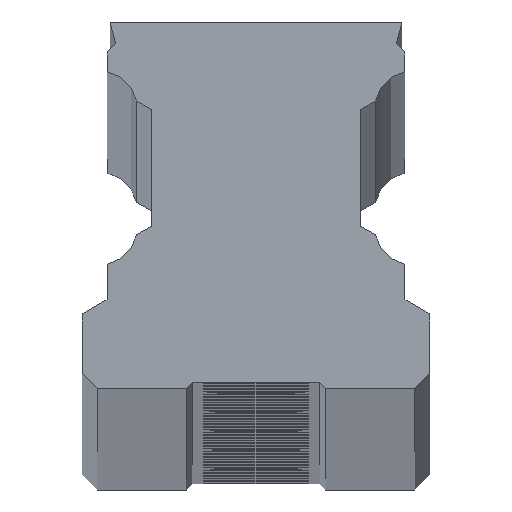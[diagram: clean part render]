
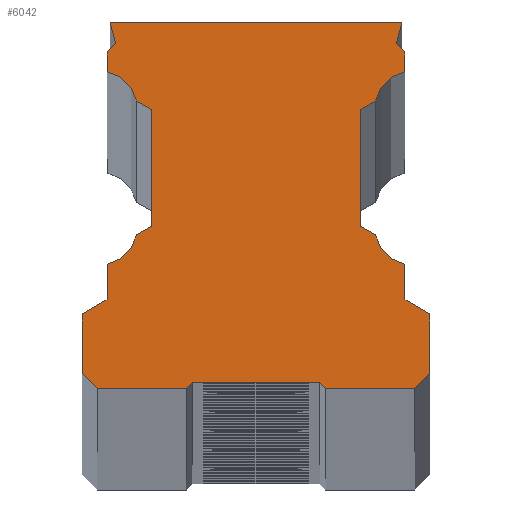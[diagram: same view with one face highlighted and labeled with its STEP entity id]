
A CAD part, top view. The second image highlights one B-rep face of the part: STEP entity #6042.
In plain terms, the highlighted planar face has unit normal (0, 0, 1).
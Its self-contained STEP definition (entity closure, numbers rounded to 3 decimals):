
#811=DIRECTION('',(-0.707,0.707,0.));
#812=VECTOR('',#811,1.414);
#813=CARTESIAN_POINT('',(-10.5,-14.6,1918.));
#814=LINE('',#813,#812);
#835=CARTESIAN_POINT('',(-10.3,-3.95,1918.));
#836=DIRECTION('',(0.,0.,-1.));
#837=DIRECTION('',(0.981,-0.194,0.));
#838=AXIS2_PLACEMENT_3D('',#835,#836,#837);
#845=DIRECTION('',(-0.707,-0.707,0.));
#846=VECTOR('',#845,0.566);
#847=CARTESIAN_POINT('',(-4.2,-14.2,1918.));
#848=LINE('',#847,#846);
#849=DIRECTION('',(1.,0.,0.));
#850=VECTOR('',#849,5.9);
#851=CARTESIAN_POINT('',(-10.5,-14.6,1918.));
#852=LINE('',#851,#850);
#853=DIRECTION('',(0.,-1.,0.));
#854=VECTOR('',#853,3.947);
#855=CARTESIAN_POINT('',(-11.5,-9.653,1918.));
#856=LINE('',#855,#854);
#857=DIRECTION('',(0.866,0.5,0.));
#858=VECTOR('',#857,1.905);
#859=CARTESIAN_POINT('',(-11.5,-9.653,1918.));
#860=LINE('',#859,#858);
#861=DIRECTION('',(0.,-1.,0.));
#862=VECTOR('',#861,2.342);
#863=CARTESIAN_POINT('',(-9.85,-6.358,1918.));
#864=LINE('',#863,#862);
#865=DIRECTION('',(0.866,0.5,0.));
#866=VECTOR('',#865,1.151);
#867=CARTESIAN_POINT('',(-7.897,-4.425,1918.));
#868=LINE('',#867,#866);
#869=DIRECTION('',(0.,1.,0.));
#870=VECTOR('',#869,7.7);
#871=CARTESIAN_POINT('',(-6.9,-3.85,1918.));
#872=LINE('',#871,#870);
#873=DIRECTION('',(-0.866,0.5,0.));
#874=VECTOR('',#873,1.151);
#875=CARTESIAN_POINT('',(-6.9,3.85,1918.));
#876=LINE('',#875,#874);
#877=DIRECTION('',(0.,-1.,0.));
#878=VECTOR('',#877,1.317);
#879=CARTESIAN_POINT('',(-9.85,7.675,1918.));
#880=LINE('',#879,#878);
#881=DIRECTION('',(0.707,0.707,0.));
#882=VECTOR('',#881,0.813);
#883=CARTESIAN_POINT('',(-9.85,7.675,1918.));
#884=LINE('',#883,#882);
#885=DIRECTION('',(-0.259,0.966,0.));
#886=VECTOR('',#885,1.449);
#887=CARTESIAN_POINT('',(-9.275,8.25,1918.));
#888=LINE('',#887,#886);
#889=DIRECTION('',(-1.,0.,0.));
#890=VECTOR('',#889,19.3);
#891=CARTESIAN_POINT('',(9.65,9.65,1918.));
#892=LINE('',#891,#890);
#893=DIRECTION('',(-0.259,-0.966,0.));
#894=VECTOR('',#893,1.449);
#895=CARTESIAN_POINT('',(9.65,9.65,1918.));
#896=LINE('',#895,#894);
#897=DIRECTION('',(0.707,-0.707,0.));
#898=VECTOR('',#897,0.813);
#899=CARTESIAN_POINT('',(9.275,8.25,1918.));
#900=LINE('',#899,#898);
#901=DIRECTION('',(0.,-1.,0.));
#902=VECTOR('',#901,1.317);
#903=CARTESIAN_POINT('',(9.85,7.675,1918.));
#904=LINE('',#903,#902);
#905=DIRECTION('',(-0.866,-0.5,0.));
#906=VECTOR('',#905,1.151);
#907=CARTESIAN_POINT('',(7.897,4.425,1918.));
#908=LINE('',#907,#906);
#909=DIRECTION('',(0.,-1.,0.));
#910=VECTOR('',#909,7.7);
#911=CARTESIAN_POINT('',(6.9,3.85,1918.));
#912=LINE('',#911,#910);
#913=DIRECTION('',(0.866,-0.5,0.));
#914=VECTOR('',#913,1.151);
#915=CARTESIAN_POINT('',(6.9,-3.85,1918.));
#916=LINE('',#915,#914);
#917=DIRECTION('',(0.,-1.,0.));
#918=VECTOR('',#917,2.342);
#919=CARTESIAN_POINT('',(9.85,-6.358,1918.));
#920=LINE('',#919,#918);
#921=DIRECTION('',(0.866,-0.5,0.));
#922=VECTOR('',#921,1.905);
#923=CARTESIAN_POINT('',(9.85,-8.7,1918.));
#924=LINE('',#923,#922);
#925=DIRECTION('',(0.,1.,0.));
#926=VECTOR('',#925,3.947);
#927=CARTESIAN_POINT('',(11.5,-13.6,1918.));
#928=LINE('',#927,#926);
#929=DIRECTION('',(1.,0.,0.));
#930=VECTOR('',#929,5.9);
#931=CARTESIAN_POINT('',(4.6,-14.6,1918.));
#932=LINE('',#931,#930);
#933=DIRECTION('',(-0.707,0.707,0.));
#934=VECTOR('',#933,0.566);
#935=CARTESIAN_POINT('',(4.6,-14.6,1918.));
#936=LINE('',#935,#934);
#937=DIRECTION('',(-1.,0.,0.));
#938=VECTOR('',#937,8.4);
#939=CARTESIAN_POINT('',(4.2,-14.2,1918.));
#940=LINE('',#939,#938);
#957=CARTESIAN_POINT('',(-10.3,3.95,1918.));
#958=DIRECTION('',(0.,0.,-1.));
#959=DIRECTION('',(0.184,0.983,0.));
#960=AXIS2_PLACEMENT_3D('',#957,#958,#959);
#1640=CARTESIAN_POINT('',(10.3,-3.95,1918.));
#1641=DIRECTION('',(0.,0.,-1.));
#1642=DIRECTION('',(-0.184,-0.983,0.));
#1643=AXIS2_PLACEMENT_3D('',#1640,#1641,#1642);
#1661=CARTESIAN_POINT('',(10.3,3.95,1918.));
#1662=DIRECTION('',(0.,0.,-1.));
#1663=DIRECTION('',(-0.981,0.194,0.));
#1664=AXIS2_PLACEMENT_3D('',#1661,#1662,#1663);
#1691=DIRECTION('',(-0.707,-0.707,0.));
#1692=VECTOR('',#1691,1.414);
#1693=CARTESIAN_POINT('',(11.5,-13.6,1918.));
#1694=LINE('',#1693,#1692);
#4651=CARTESIAN_POINT('',(9.85,-8.7,1918.));
#4652=CARTESIAN_POINT('',(11.5,-9.653,1918.));
#4653=VERTEX_POINT('',#4651);
#4654=VERTEX_POINT('',#4652);
#4655=CARTESIAN_POINT('',(-11.5,-9.653,1918.));
#4656=CARTESIAN_POINT('',(-9.85,-8.7,1918.));
#4657=VERTEX_POINT('',#4655);
#4658=VERTEX_POINT('',#4656);
#4660=CARTESIAN_POINT('',(9.85,6.358,1918.));
#4662=VERTEX_POINT('',#4660);
#4664=CARTESIAN_POINT('',(9.85,-6.358,1918.));
#4666=VERTEX_POINT('',#4664);
#4668=CARTESIAN_POINT('',(-9.85,6.358,1918.));
#4670=VERTEX_POINT('',#4668);
#4672=CARTESIAN_POINT('',(-9.85,-6.358,1918.));
#4674=VERTEX_POINT('',#4672);
#4683=CARTESIAN_POINT('',(6.9,3.85,1918.));
#4684=CARTESIAN_POINT('',(6.9,-3.85,1918.));
#4685=VERTEX_POINT('',#4683);
#4686=VERTEX_POINT('',#4684);
#4687=CARTESIAN_POINT('',(7.897,-4.425,1918.));
#4688=VERTEX_POINT('',#4687);
#4689=CARTESIAN_POINT('',(7.897,4.425,1918.));
#4690=VERTEX_POINT('',#4689);
#4691=CARTESIAN_POINT('',(-7.897,4.425,1918.));
#4692=VERTEX_POINT('',#4691);
#4695=CARTESIAN_POINT('',(-7.897,-4.425,1918.));
#4696=VERTEX_POINT('',#4695);
#4711=CARTESIAN_POINT('',(9.65,9.65,1918.));
#4712=CARTESIAN_POINT('',(9.275,8.25,1918.));
#4713=VERTEX_POINT('',#4711);
#4714=VERTEX_POINT('',#4712);
#4715=CARTESIAN_POINT('',(9.85,7.675,1918.));
#4716=VERTEX_POINT('',#4715);
#4717=CARTESIAN_POINT('',(-9.85,7.675,1918.));
#4718=CARTESIAN_POINT('',(-9.275,8.25,1918.));
#4719=VERTEX_POINT('',#4717);
#4720=VERTEX_POINT('',#4718);
#4721=CARTESIAN_POINT('',(-9.65,9.65,1918.));
#4722=VERTEX_POINT('',#4721);
#4724=CARTESIAN_POINT('',(11.5,-13.6,1918.));
#4726=VERTEX_POINT('',#4724);
#4728=CARTESIAN_POINT('',(10.5,-14.6,1918.));
#4730=VERTEX_POINT('',#4728);
#4732=CARTESIAN_POINT('',(-10.5,-14.6,1918.));
#4734=VERTEX_POINT('',#4732);
#4736=CARTESIAN_POINT('',(-11.5,-13.6,1918.));
#4738=VERTEX_POINT('',#4736);
#4747=CARTESIAN_POINT('',(-4.2,-14.2,1918.));
#4748=CARTESIAN_POINT('',(-4.6,-14.6,1918.));
#4749=VERTEX_POINT('',#4747);
#4750=VERTEX_POINT('',#4748);
#4751=CARTESIAN_POINT('',(4.6,-14.6,1918.));
#4752=CARTESIAN_POINT('',(4.2,-14.2,1918.));
#4753=VERTEX_POINT('',#4751);
#4754=VERTEX_POINT('',#4752);
#4775=CARTESIAN_POINT('',(-6.9,-3.85,1918.));
#4776=VERTEX_POINT('',#4775);
#4777=CARTESIAN_POINT('',(-6.9,3.85,1918.));
#4778=VERTEX_POINT('',#4777);
#5984=CARTESIAN_POINT('',(0.,0.,1918.));
#5985=DIRECTION('',(0.,0.,1.));
#5986=DIRECTION('',(1.,0.,0.));
#5987=AXIS2_PLACEMENT_3D('',#5984,#5985,#5986);
#5988=PLANE('',#5987);
#5989=ORIENTED_EDGE('',*,*,#5863,.T.);
#5990=ORIENTED_EDGE('',*,*,#5879,.F.);
#5991=ORIENTED_EDGE('',*,*,#5908,.T.);
#5992=ORIENTED_EDGE('',*,*,#5920,.F.);
#5993=ORIENTED_EDGE('',*,*,#5935,.T.);
#5994=ORIENTED_EDGE('',*,*,#5948,.F.);
#5995=ORIENTED_EDGE('',*,*,#5975,.F.);
#5997=ORIENTED_EDGE('',*,*,#5996,.T.);
#5999=ORIENTED_EDGE('',*,*,#5998,.T.);
#6001=ORIENTED_EDGE('',*,*,#6000,.T.);
#6003=ORIENTED_EDGE('',*,*,#6002,.F.);
#6004=ORIENTED_EDGE('',*,*,#5962,.F.);
#6006=ORIENTED_EDGE('',*,*,#6005,.T.);
#6008=ORIENTED_EDGE('',*,*,#6007,.T.);
#6010=ORIENTED_EDGE('',*,*,#6009,.F.);
#6012=ORIENTED_EDGE('',*,*,#6011,.T.);
#6014=ORIENTED_EDGE('',*,*,#6013,.T.);
#6016=ORIENTED_EDGE('',*,*,#6015,.T.);
#6018=ORIENTED_EDGE('',*,*,#6017,.F.);
#6020=ORIENTED_EDGE('',*,*,#6019,.T.);
#6022=ORIENTED_EDGE('',*,*,#6021,.T.);
#6024=ORIENTED_EDGE('',*,*,#6023,.T.);
#6026=ORIENTED_EDGE('',*,*,#6025,.F.);
#6028=ORIENTED_EDGE('',*,*,#6027,.T.);
#6030=ORIENTED_EDGE('',*,*,#6029,.T.);
#6032=ORIENTED_EDGE('',*,*,#6031,.F.);
#6034=ORIENTED_EDGE('',*,*,#6033,.T.);
#6035=ORIENTED_EDGE('',*,*,#5891,.F.);
#6037=ORIENTED_EDGE('',*,*,#6036,.T.);
#6039=ORIENTED_EDGE('',*,*,#6038,.T.);
#6040=EDGE_LOOP('',(#5989,#5990,#5991,#5992,#5993,#5994,#5995,#5997,#5999,#6001,
#6003,#6004,#6006,#6008,#6010,#6012,#6014,#6016,#6018,#6020,#6022,#6024,#6026,
#6028,#6030,#6032,#6034,#6035,#6037,#6039));
#6041=FACE_OUTER_BOUND('',#6040,.F.);
#6042=ADVANCED_FACE('',(#6041),#5988,.T.);
#839=CIRCLE('',#838,2.45);
#961=CIRCLE('',#960,2.45);
#1644=CIRCLE('',#1643,2.45);
#1665=CIRCLE('',#1664,2.45);
#5863=EDGE_CURVE('',#4749,#4750,#848,.T.);
#5879=EDGE_CURVE('',#4734,#4750,#852,.T.);
#5891=EDGE_CURVE('',#4753,#4730,#932,.T.);
#5908=EDGE_CURVE('',#4734,#4738,#814,.T.);
#5920=EDGE_CURVE('',#4657,#4738,#856,.T.);
#5935=EDGE_CURVE('',#4657,#4658,#860,.T.);
#5948=EDGE_CURVE('',#4674,#4658,#864,.T.);
#5962=EDGE_CURVE('',#4719,#4670,#880,.T.);
#5975=EDGE_CURVE('',#4696,#4674,#839,.T.);
#5996=EDGE_CURVE('',#4696,#4776,#868,.T.);
#5998=EDGE_CURVE('',#4776,#4778,#872,.T.);
#6000=EDGE_CURVE('',#4778,#4692,#876,.T.);
#6002=EDGE_CURVE('',#4670,#4692,#961,.T.);
#6005=EDGE_CURVE('',#4719,#4720,#884,.T.);
#6007=EDGE_CURVE('',#4720,#4722,#888,.T.);
#6009=EDGE_CURVE('',#4713,#4722,#892,.T.);
#6011=EDGE_CURVE('',#4713,#4714,#896,.T.);
#6013=EDGE_CURVE('',#4714,#4716,#900,.T.);
#6015=EDGE_CURVE('',#4716,#4662,#904,.T.);
#6017=EDGE_CURVE('',#4690,#4662,#1665,.T.);
#6019=EDGE_CURVE('',#4690,#4685,#908,.T.);
#6021=EDGE_CURVE('',#4685,#4686,#912,.T.);
#6023=EDGE_CURVE('',#4686,#4688,#916,.T.);
#6025=EDGE_CURVE('',#4666,#4688,#1644,.T.);
#6027=EDGE_CURVE('',#4666,#4653,#920,.T.);
#6029=EDGE_CURVE('',#4653,#4654,#924,.T.);
#6031=EDGE_CURVE('',#4726,#4654,#928,.T.);
#6033=EDGE_CURVE('',#4726,#4730,#1694,.T.);
#6036=EDGE_CURVE('',#4753,#4754,#936,.T.);
#6038=EDGE_CURVE('',#4754,#4749,#940,.T.);
